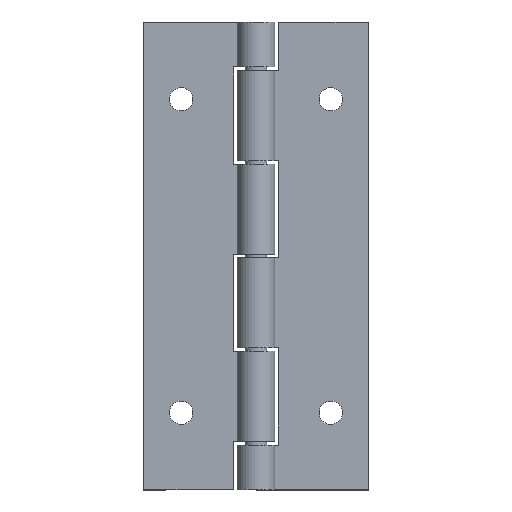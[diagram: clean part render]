
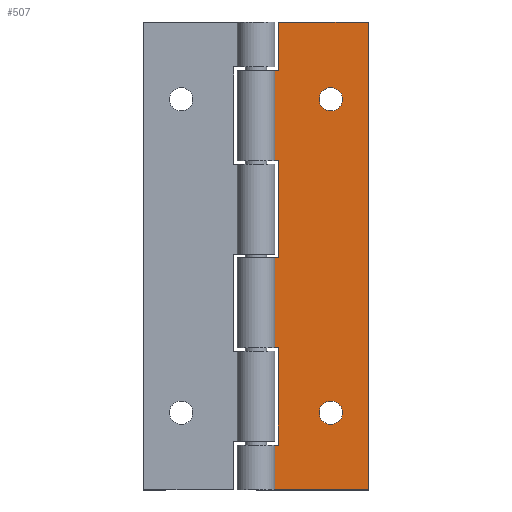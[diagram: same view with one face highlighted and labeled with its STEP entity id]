
A CAD part, top view. The second image highlights one B-rep face of the part: STEP entity #507.
In plain terms, the highlighted planar face has unit normal (0, 0, 1).
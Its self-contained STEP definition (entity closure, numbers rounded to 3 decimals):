
#45=LINE('',#775,#93);
#46=LINE('',#778,#94);
#47=LINE('',#780,#95);
#48=LINE('',#782,#96);
#49=LINE('',#784,#97);
#50=LINE('',#786,#98);
#51=LINE('',#788,#99);
#52=LINE('',#790,#100);
#53=LINE('',#792,#101);
#54=LINE('',#794,#102);
#55=LINE('',#796,#103);
#56=LINE('',#798,#104);
#57=LINE('',#800,#105);
#58=LINE('',#802,#106);
#93=VECTOR('',#623,1000.);
#94=VECTOR('',#624,1000.);
#95=VECTOR('',#625,1000.);
#96=VECTOR('',#626,1000.);
#97=VECTOR('',#627,1000.);
#98=VECTOR('',#628,1000.);
#99=VECTOR('',#629,1000.);
#100=VECTOR('',#630,1000.);
#101=VECTOR('',#631,1000.);
#102=VECTOR('',#632,1000.);
#103=VECTOR('',#633,1000.);
#104=VECTOR('',#634,1000.);
#105=VECTOR('',#635,1000.);
#106=VECTOR('',#636,1000.);
#141=ORIENTED_EDGE('',*,*,#277,.F.);
#142=ORIENTED_EDGE('',*,*,#278,.F.);
#143=ORIENTED_EDGE('',*,*,#279,.F.);
#144=ORIENTED_EDGE('',*,*,#280,.F.);
#145=ORIENTED_EDGE('',*,*,#281,.F.);
#146=ORIENTED_EDGE('',*,*,#282,.F.);
#147=ORIENTED_EDGE('',*,*,#283,.F.);
#148=ORIENTED_EDGE('',*,*,#284,.T.);
#149=ORIENTED_EDGE('',*,*,#285,.T.);
#150=ORIENTED_EDGE('',*,*,#286,.F.);
#151=ORIENTED_EDGE('',*,*,#287,.F.);
#152=ORIENTED_EDGE('',*,*,#288,.F.);
#153=ORIENTED_EDGE('',*,*,#289,.F.);
#154=ORIENTED_EDGE('',*,*,#290,.F.);
#155=ORIENTED_EDGE('',*,*,#291,.F.);
#156=ORIENTED_EDGE('',*,*,#292,.F.);
#277=EDGE_CURVE('',#345,#345,#393,.T.);
#278=EDGE_CURVE('',#346,#346,#394,.T.);
#279=EDGE_CURVE('',#347,#348,#45,.T.);
#280=EDGE_CURVE('',#349,#347,#46,.T.);
#281=EDGE_CURVE('',#350,#349,#47,.T.);
#282=EDGE_CURVE('',#351,#350,#48,.T.);
#283=EDGE_CURVE('',#352,#351,#49,.T.);
#284=EDGE_CURVE('',#352,#353,#50,.T.);
#285=EDGE_CURVE('',#353,#354,#51,.T.);
#286=EDGE_CURVE('',#355,#354,#52,.T.);
#287=EDGE_CURVE('',#356,#355,#53,.T.);
#288=EDGE_CURVE('',#357,#356,#54,.T.);
#289=EDGE_CURVE('',#358,#357,#55,.T.);
#290=EDGE_CURVE('',#359,#358,#56,.T.);
#291=EDGE_CURVE('',#360,#359,#57,.T.);
#292=EDGE_CURVE('',#348,#360,#58,.T.);
#345=VERTEX_POINT('',#772);
#346=VERTEX_POINT('',#774);
#347=VERTEX_POINT('',#776);
#348=VERTEX_POINT('',#777);
#349=VERTEX_POINT('',#779);
#350=VERTEX_POINT('',#781);
#351=VERTEX_POINT('',#783);
#352=VERTEX_POINT('',#785);
#353=VERTEX_POINT('',#787);
#354=VERTEX_POINT('',#789);
#355=VERTEX_POINT('',#791);
#356=VERTEX_POINT('',#793);
#357=VERTEX_POINT('',#795);
#358=VERTEX_POINT('',#797);
#359=VERTEX_POINT('',#799);
#360=VERTEX_POINT('',#801);
#393=CIRCLE('',#564,0.625);
#394=CIRCLE('',#565,0.625);
#413=EDGE_LOOP('',(#141));
#414=EDGE_LOOP('',(#142));
#415=EDGE_LOOP('',(#143,#144,#145,#146,#147,#148,#149,#150,#151,#152,#153,
#154,#155,#156));
#451=FACE_BOUND('',#413,.T.);
#452=FACE_BOUND('',#414,.T.);
#453=FACE_BOUND('',#415,.T.);
#489=PLANE('',#563);
#507=ADVANCED_FACE('',(#451,#452,#453),#489,.F.);
#563=AXIS2_PLACEMENT_3D('',#770,#617,#618);
#564=AXIS2_PLACEMENT_3D('',#771,#619,#620);
#565=AXIS2_PLACEMENT_3D('',#773,#621,#622);
#617=DIRECTION('',(0.,0.,-1.));
#618=DIRECTION('',(-1.,0.,0.));
#619=DIRECTION('',(0.,0.,1.));
#620=DIRECTION('',(1.,0.,0.));
#621=DIRECTION('',(0.,0.,1.));
#622=DIRECTION('',(1.,0.,0.));
#623=DIRECTION('',(-1.,0.,0.));
#624=DIRECTION('',(0.,1.,0.));
#625=DIRECTION('',(1.,0.,0.));
#626=DIRECTION('',(0.,1.,0.));
#627=DIRECTION('',(-1.,0.,0.));
#628=DIRECTION('',(0.,1.,0.));
#629=DIRECTION('',(-1.,0.,0.));
#630=DIRECTION('',(0.,1.,0.));
#631=DIRECTION('',(1.,0.,0.));
#632=DIRECTION('',(0.,1.,0.));
#633=DIRECTION('',(-1.,0.,0.));
#634=DIRECTION('',(0.,1.,0.));
#635=DIRECTION('',(1.,0.,0.));
#636=DIRECTION('',(0.,1.,0.));
#770=CARTESIAN_POINT('',(0.,0.,0.4));
#771=CARTESIAN_POINT('',(-2.,4.125,0.4));
#772=CARTESIAN_POINT('',(-1.375,4.125,0.4));
#773=CARTESIAN_POINT('',(-2.,20.875,0.4));
#774=CARTESIAN_POINT('',(-1.375,20.875,0.4));
#775=CARTESIAN_POINT('',(0.,7.6,0.4));
#776=CARTESIAN_POINT('',(-4.8,7.6,0.4));
#777=CARTESIAN_POINT('',(-6.,7.6,0.4));
#778=CARTESIAN_POINT('',(-4.8,0.,0.4));
#779=CARTESIAN_POINT('',(-4.8,2.4,0.4));
#780=CARTESIAN_POINT('',(0.,2.4,0.4));
#781=CARTESIAN_POINT('',(-6.,2.4,0.4));
#782=CARTESIAN_POINT('',(-6.,0.,0.4));
#783=CARTESIAN_POINT('',(-6.,0.,0.4));
#784=CARTESIAN_POINT('',(0.,0.,0.4));
#785=CARTESIAN_POINT('',(0.,0.,0.4));
#786=CARTESIAN_POINT('',(0.,0.,0.4));
#787=CARTESIAN_POINT('',(0.,25.,0.4));
#788=CARTESIAN_POINT('',(0.,25.,0.4));
#789=CARTESIAN_POINT('',(-4.8,25.,0.4));
#790=CARTESIAN_POINT('',(-4.8,0.,0.4));
#791=CARTESIAN_POINT('',(-4.8,22.4,0.4));
#792=CARTESIAN_POINT('',(0.,22.4,0.4));
#793=CARTESIAN_POINT('',(-6.,22.4,0.4));
#794=CARTESIAN_POINT('',(-6.,0.,0.4));
#795=CARTESIAN_POINT('',(-6.,17.6,0.4));
#796=CARTESIAN_POINT('',(0.,17.6,0.4));
#797=CARTESIAN_POINT('',(-4.8,17.6,0.4));
#798=CARTESIAN_POINT('',(-4.8,0.,0.4));
#799=CARTESIAN_POINT('',(-4.8,12.4,0.4));
#800=CARTESIAN_POINT('',(0.,12.4,0.4));
#801=CARTESIAN_POINT('',(-6.,12.4,0.4));
#802=CARTESIAN_POINT('',(-6.,0.,0.4));
